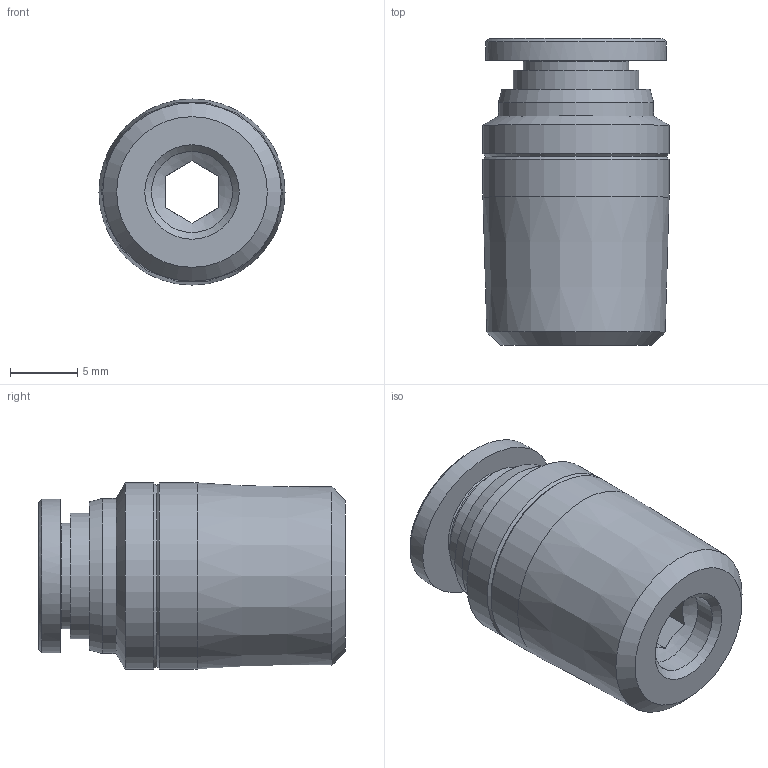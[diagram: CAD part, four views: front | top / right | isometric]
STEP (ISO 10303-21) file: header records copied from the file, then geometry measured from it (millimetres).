
FILE_DESCRIPTION((''),'2;1');
FILE_NAME('C:\Users\user0117\Desktop\김진일\홈페이지\1_4\Internet\GPOC 1_4-N02U.stp','2019-09-02T10:06:01',('user0117'),(''),'Autodesk Inventor 2013','Autodesk Inventor 2013','');
FILE_SCHEMA(('AUTOMOTIVE_DESIGN { 1 0 10303 214 1 1 1 1 }'));
Length unit declared in the file: millimetre
Products named in the file (5): GPOC 1_4-N02U; GPOC BODY 1-4 N02(BRASS); G-COLLAR G1-4C; COLLAR G1-4C; SLEEVE G1-4
Assembly tree (4 placements, depth 3):
  GPOC 1_4-N02U
    GPOC BODY 1-4 N02(BRASS)
    G-COLLAR G1-4C
      COLLAR G1-4C
      SLEEVE G1-4
Bounding box: 13.8 x 22.75 x 13.8 mm (x, y, z)
Volume: 2298.9 mm3; surface area: 1789.5 mm2
Topology: 3 solids, 3 shells, 150 faces, 384 edges, 254 vertices
Faces by surface type: plane 103, bspline 22, cylinder 15, cone 10
Full cylindrical faces by diameter (mm): 6 x1, 6.55 x3, 7.85 x1, 9.3 x1, 11.5 x1, 13.8 x2
Entity records: 4846 total; most frequent: CARTESIAN_POINT 1218, ORIENTED_EDGE 712, DIRECTION 691, EDGE_CURVE 356, VECTOR 269, LINE 269, VERTEX_POINT 246, AXIS2_PLACEMENT_3D 211
